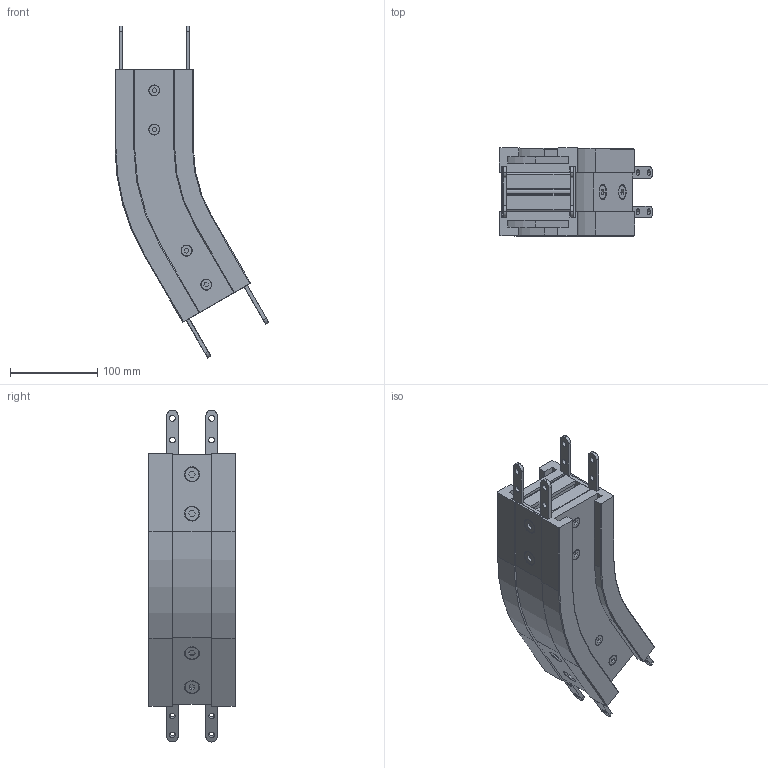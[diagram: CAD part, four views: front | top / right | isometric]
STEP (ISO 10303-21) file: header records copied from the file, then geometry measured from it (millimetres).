
FILE_DESCRIPTION (( 'STEP AP214' ), '1' );
FILE_NAME ('2000.325.430.STEP', '2021-02-11T09:37:10', ( '' ), ( '' ), 'SwSTEP 2.0', 'SolidWorks 2018', '' );
FILE_SCHEMA (( 'AUTOMOTIVE_DESIGN' ));
Length unit declared in the file: millimetre
Products named in the file (9): 2000.325.442_2000.1200.490; 2000.325.443; 2000.325.429_Default<A macchina>; 2000.325.430; 2000.001.402; 084.302.000 DADI ALUSIC 13x13-1_084.302.008; VITI TSEI UNI 5933 INOX_0820UNI5933A2; VITI TSEI UNI 5933 INOX_0620UNI5933A2; 2000.325.444
Assembly tree (34 placements, depth 2):
  2000.325.430
    2000.325.442_2000.1200.490  x2
    2000.325.429_Default<A macchina>  x2
    2000.001.402  x4
    2000.325.444
    2000.325.443
    VITI TSEI UNI 5933 INOX_0620UNI5933A2  x8
    VITI TSEI UNI 5933 INOX_0820UNI5933A2  x8
    084.302.000 DADI ALUSIC 13x13-1_084.302.008  x8
Bounding box: 176.87 x 101 x 381.49 mm (x, y, z)
Volume: 1167897.8 mm3; surface area: 485277.8 mm2
Topology: 42 solids, 42 shells, 1198 faces, 3070 edges, 1972 vertices
Faces by surface type: plane 632, cylinder 398, cone 136, torus 32
Entity records: 13652 total; most frequent: CARTESIAN_POINT 2373, DIRECTION 2321, ORIENTED_EDGE 2198, EDGE_CURVE 1099, AXIS2_PLACEMENT_3D 794, VECTOR 733, LINE 733, VERTEX_POINT 714
